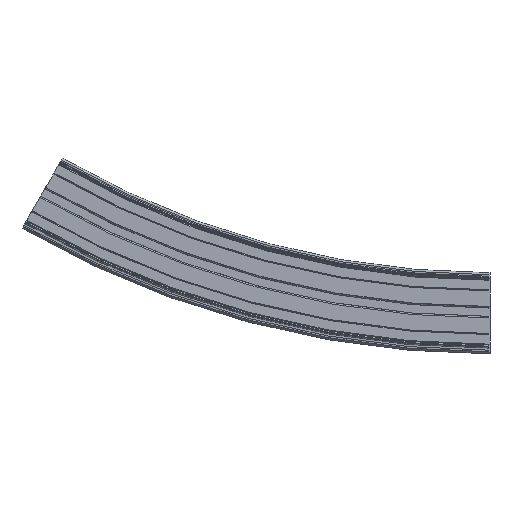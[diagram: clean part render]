
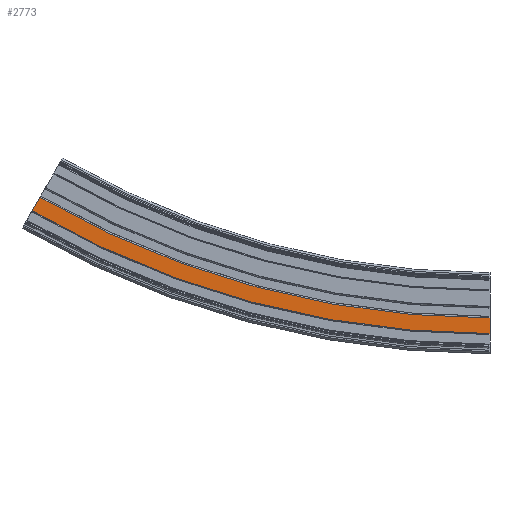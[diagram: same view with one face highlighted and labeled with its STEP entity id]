
A CAD part, left-side view. The second image highlights one B-rep face of the part: STEP entity #2773.
In plain terms, the highlighted planar face has unit normal (-1, 0, 0).
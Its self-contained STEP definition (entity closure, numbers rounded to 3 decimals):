
#267=CIRCLE('',#3020,865.5);
#268=CIRCLE('',#3022,880.5);
#442=FACE_OUTER_BOUND('',#596,.T.);
#596=EDGE_LOOP('',(#2171,#2172,#2173,#2174));
#773=LINE('',#9181,#979);
#774=LINE('',#9183,#980);
#979=VECTOR('',#3622,10.);
#980=VECTOR('',#3623,10.);
#1235=VERTEX_POINT('',#9174);
#1236=VERTEX_POINT('',#9176);
#1237=VERTEX_POINT('',#9180);
#1238=VERTEX_POINT('',#9182);
#1602=EDGE_CURVE('',#1235,#1236,#267,.T.);
#1603=EDGE_CURVE('',#1237,#1235,#773,.T.);
#1604=EDGE_CURVE('',#1238,#1236,#774,.T.);
#1605=EDGE_CURVE('',#1237,#1238,#268,.T.);
#2171=ORIENTED_EDGE('',*,*,#1603,.T.);
#2172=ORIENTED_EDGE('',*,*,#1602,.T.);
#2173=ORIENTED_EDGE('',*,*,#1604,.F.);
#2174=ORIENTED_EDGE('',*,*,#1605,.F.);
#2663=PLANE('',#3021);
#2773=ADVANCED_FACE('',(#442),#2663,.T.);
#3020=AXIS2_PLACEMENT_3D('',#9178,#3618,#3619);
#3021=AXIS2_PLACEMENT_3D('',#9179,#3620,#3621);
#3022=AXIS2_PLACEMENT_3D('',#9184,#3624,#3625);
#3618=DIRECTION('center_axis',(1.,0.,0.));
#3619=DIRECTION('ref_axis',(0.,0.,-1.));
#3620=DIRECTION('center_axis',(-1.,0.,0.));
#3621=DIRECTION('ref_axis',(0.,0.,1.));
#3622=DIRECTION('',(0.,0.,1.));
#3623=DIRECTION('',(0.,-0.5,0.866));
#3624=DIRECTION('center_axis',(1.,0.,0.));
#3625=DIRECTION('ref_axis',(0.,0.,-1.));
#9174=CARTESIAN_POINT('',(-32.,0.,-5.5));
#9176=CARTESIAN_POINT('',(-32.,432.75,110.455));
#9178=CARTESIAN_POINT('Origin',(-32.,0.,860.));
#9179=CARTESIAN_POINT('Origin',(-32.,0.,-20.5));
#9180=CARTESIAN_POINT('',(-32.,0.,-20.5));
#9181=CARTESIAN_POINT('',(-32.,0.,-20.5));
#9182=CARTESIAN_POINT('',(-32.,440.25,97.465));
#9183=CARTESIAN_POINT('',(-32.,440.25,97.465));
#9184=CARTESIAN_POINT('Origin',(-32.,0.,860.));
